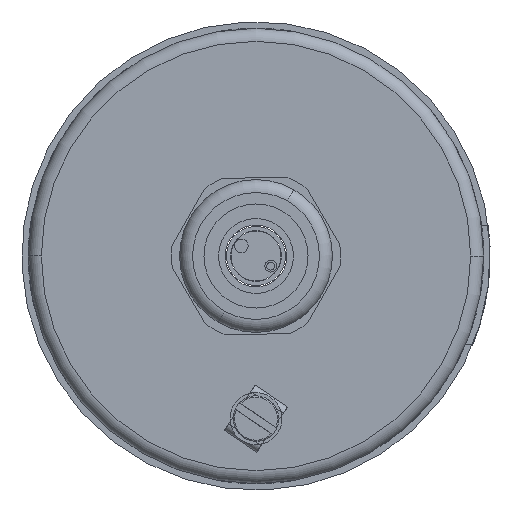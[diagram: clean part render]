
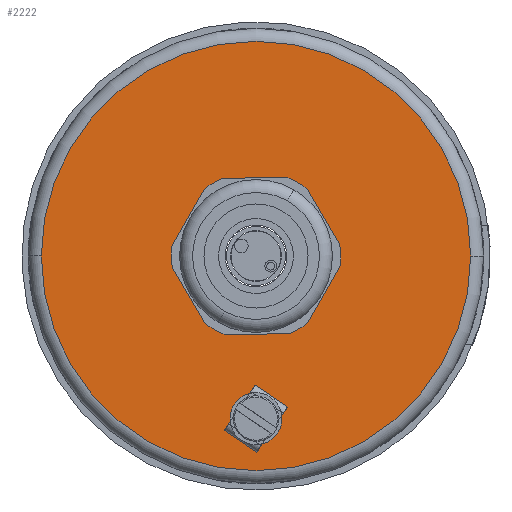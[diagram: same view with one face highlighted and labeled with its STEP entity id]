
A CAD part, left-side view. The second image highlights one B-rep face of the part: STEP entity #2222.
In plain terms, the highlighted planar face has unit normal (-1, 0, 0).
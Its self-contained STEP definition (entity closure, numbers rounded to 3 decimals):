
#26 = VERTEX_POINT ( 'NONE', #15979 ) ;
#58 = CARTESIAN_POINT ( 'NONE',  ( -70.2, 0., 0. ) ) ;
#1455 = VERTEX_POINT ( 'NONE', #17410 ) ;
#1567 = DIRECTION ( 'NONE',  ( 0., -1., 0. ) ) ;
#1758 = VERTEX_POINT ( 'NONE', #13426 ) ;
#2222 = ADVANCED_FACE ( 'NONE', ( #18920, #14475, #10460 ), #8367, .F. ) ;
#2278 = DIRECTION ( 'NONE',  ( -1., 0., 0. ) ) ;
#2542 = VERTEX_POINT ( 'NONE', #3175 ) ;
#2671 = CIRCLE ( 'NONE', #19032, 8.025 ) ;
#2720 = CARTESIAN_POINT ( 'NONE',  ( -70.2, 0., 0. ) ) ;
#3175 = CARTESIAN_POINT ( 'NONE',  ( -70.2, 33., 0. ) ) ;
#3807 = ORIENTED_EDGE ( 'NONE', *, *, #13503, .F. ) ;
#3890 = DIRECTION ( 'NONE',  ( 1., 0., 0. ) ) ;
#4251 = DIRECTION ( 'NONE',  ( 0., 1., 0. ) ) ;
#5769 = EDGE_CURVE ( 'NONE', #16666, #2542, #7918, .T. ) ;
#5985 = CARTESIAN_POINT ( 'NONE',  ( -70.2, 0., 33. ) ) ;
#6415 = DIRECTION ( 'NONE',  ( -1., 0., 0. ) ) ;
#6802 = ORIENTED_EDGE ( 'NONE', *, *, #12843, .F. ) ;
#7458 = ORIENTED_EDGE ( 'NONE', *, *, #10681, .F. ) ;
#7499 = DIRECTION ( 'NONE',  ( 1., 0., 0. ) ) ;
#7918 = CIRCLE ( 'NONE', #8604, 33. ) ;
#8367 = PLANE ( 'NONE',  #14699 ) ;
#8451 = CARTESIAN_POINT ( 'NONE',  ( -70.2, 0., -25. ) ) ;
#8604 = AXIS2_PLACEMENT_3D ( 'NONE', #12890, #3890, #14400 ) ;
#9010 = AXIS2_PLACEMENT_3D ( 'NONE', #8451, #18970, #9954 ) ;
#9954 = DIRECTION ( 'NONE',  ( 0., -1., 0. ) ) ;
#10081 = ORIENTED_EDGE ( 'NONE', *, *, #5769, .F. ) ;
#10236 = EDGE_LOOP ( 'NONE', ( #7458, #6802 ) ) ;
#10460 = FACE_BOUND ( 'NONE', #14517, .T. ) ;
#10537 = DIRECTION ( 'NONE',  ( -1., 0., 0. ) ) ;
#10569 = CIRCLE ( 'NONE', #17162, 8.025 ) ;
#10681 = EDGE_CURVE ( 'NONE', #1758, #1455, #15156, .T. ) ;
#11284 = CARTESIAN_POINT ( 'NONE',  ( -70.2, 0., -25. ) ) ;
#11319 = EDGE_LOOP ( 'NONE', ( #3807, #10081 ) ) ;
#11852 = ORIENTED_EDGE ( 'NONE', *, *, #14191, .F. ) ;
#12156 = CIRCLE ( 'NONE', #12622, 33. ) ;
#12622 = AXIS2_PLACEMENT_3D ( 'NONE', #2720, #13251, #4251 ) ;
#12808 = DIRECTION ( 'NONE',  ( 0., -1., 0. ) ) ;
#12843 = EDGE_CURVE ( 'NONE', #1455, #1758, #16423, .T. ) ;
#12890 = CARTESIAN_POINT ( 'NONE',  ( -70.2, 0., 0. ) ) ;
#13251 = DIRECTION ( 'NONE',  ( 1., 0., 0. ) ) ;
#13426 = CARTESIAN_POINT ( 'NONE',  ( -70.2, -2.7, -25. ) ) ;
#13503 = EDGE_CURVE ( 'NONE', #2542, #16666, #12156, .T. ) ;
#14191 = EDGE_CURVE ( 'NONE', #14409, #26, #10569, .T. ) ;
#14400 = DIRECTION ( 'NONE',  ( 0., 1., 0. ) ) ;
#14409 = VERTEX_POINT ( 'NONE', #17669 ) ;
#14475 = FACE_OUTER_BOUND ( 'NONE', #11319, .T. ) ;
#14517 = EDGE_LOOP ( 'NONE', ( #18086, #11852 ) ) ;
#14699 = AXIS2_PLACEMENT_3D ( 'NONE', #5985, #7499, #16520 ) ;
#15156 = CIRCLE ( 'NONE', #9010, 2.7 ) ;
#15445 = CARTESIAN_POINT ( 'NONE',  ( -70.2, 0., 0. ) ) ;
#15498 = AXIS2_PLACEMENT_3D ( 'NONE', #11284, #2278, #12808 ) ;
#15979 = CARTESIAN_POINT ( 'NONE',  ( -70.2, -8.025, 0. ) ) ;
#16222 = CARTESIAN_POINT ( 'NONE',  ( -70.2, -33., 0. ) ) ;
#16423 = CIRCLE ( 'NONE', #15498, 2.7 ) ;
#16520 = DIRECTION ( 'NONE',  ( 0., 1., 0. ) ) ;
#16666 = VERTEX_POINT ( 'NONE', #16222 ) ;
#16945 = DIRECTION ( 'NONE',  ( 0., -1., 0. ) ) ;
#17162 = AXIS2_PLACEMENT_3D ( 'NONE', #15445, #6415, #16945 ) ;
#17410 = CARTESIAN_POINT ( 'NONE',  ( -70.2, 2.7, -25. ) ) ;
#17669 = CARTESIAN_POINT ( 'NONE',  ( -70.2, 8.025, 0. ) ) ;
#17868 = EDGE_CURVE ( 'NONE', #26, #14409, #2671, .T. ) ;
#18086 = ORIENTED_EDGE ( 'NONE', *, *, #17868, .F. ) ;
#18920 = FACE_BOUND ( 'NONE', #10236, .T. ) ;
#18970 = DIRECTION ( 'NONE',  ( -1., 0., 0. ) ) ;
#19032 = AXIS2_PLACEMENT_3D ( 'NONE', #58, #10537, #1567 ) ;
